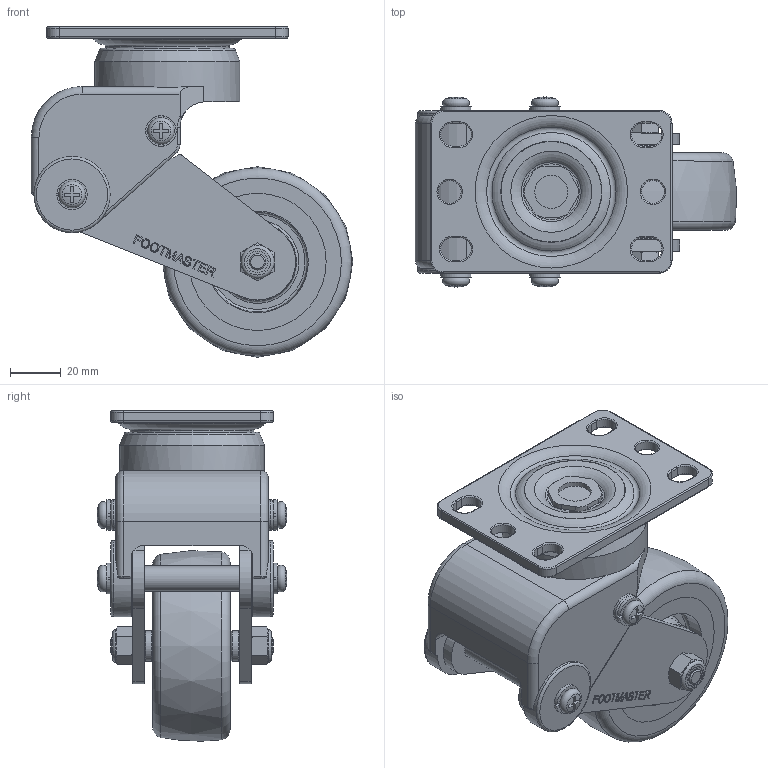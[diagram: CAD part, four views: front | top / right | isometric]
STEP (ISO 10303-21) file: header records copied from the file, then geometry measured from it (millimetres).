
FILE_DESCRIPTION(/* description */ (''),/* implementation_level */ '2;1');
FILE_NAME(/* name */ 'D:/GDS-75-ASF-PUS v1.step',/* time_stamp */ '2019-05-01T10:48:25+09:00',/* author */ ('hoya0806@gdok.co.kr'),/* organization */ (''),/* preprocessor_version */ 'ST-DEVELOPER v18',/* originating_system */ 'Autodesk Translation Framework v8.2.0.1029',/* authorisation */ '');
FILE_SCHEMA (('AUTOMOTIVE_DESIGN { 1 0 10303 214 3 1 1 }'));
Length unit declared in the file: millimetre
Products named in the file (12): GDS-75-ASF-PUS; S10020; Wheel; Component5; Component6; Leg; Inner Washer; 95003A102; Nylon Nut M8 v1; 94645A210; Nylon Nut M8 v1 (1); 94645A210 (1)
Assembly tree (13 placements, depth 3):
  GDS-75-ASF-PUS
    S10020
    Leg  x2
    Inner Washer  x2
    Wheel
      Component5
      Component6
    95003A102
    Nylon Nut M8 v1
      94645A210
    Nylon Nut M8 v1 (1)
      94645A210 (1)
Bounding box: 126.44 x 74.74 x 129.99 mm (x, y, z)
Volume: 286428.3 mm3; surface area: 87336.1 mm2
Topology: 13 solids, 15 shells, 832 faces, 2192 edges, 1435 vertices
Faces by surface type: plane 375, bspline 195, cylinder 150, torus 67, cone 45
Full cylindrical faces by diameter (mm): 6 x6, 6.376 x12, 6.684 x2, 8 x8, 8.2 x2, 8.355 x2, 9 x2, 10 x1, 10.1 x2, 10.2 x2, 12 x4, 13 x1, 22 x2, 30 x2, 48.676 x1, 54 x2, 57 x1
Entity records: 25283 total; most frequent: CARTESIAN_POINT 10351, ORIENTED_EDGE 3202, DIRECTION 2830, EDGE_CURVE 1601, VERTEX_POINT 1043, AXIS2_PLACEMENT_3D 1040, LINE 750, VECTOR 750
